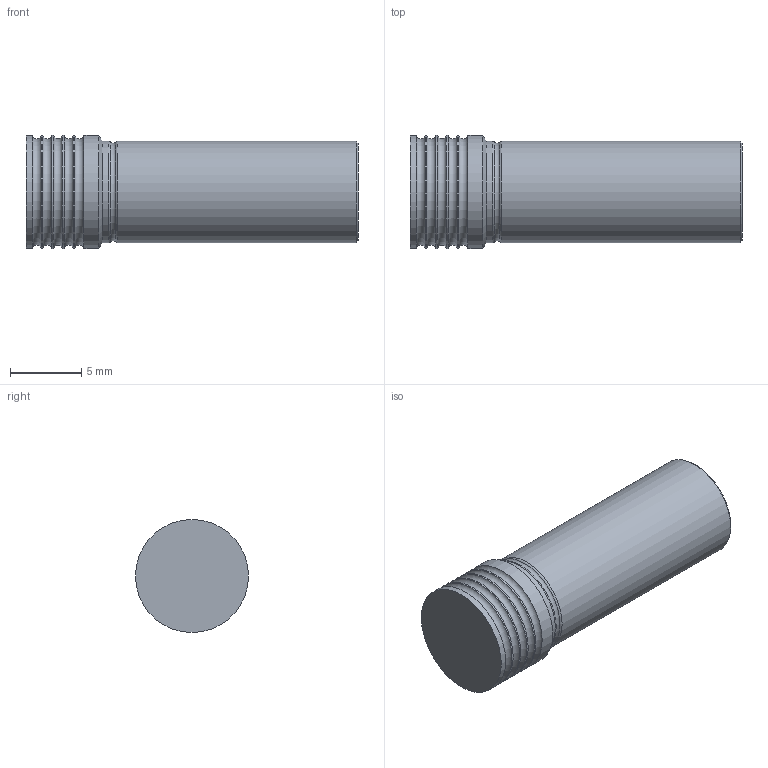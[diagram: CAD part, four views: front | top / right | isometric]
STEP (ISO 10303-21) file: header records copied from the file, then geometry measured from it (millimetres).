
FILE_DESCRIPTION(/* description */ ('PCHR8010XXXS'),/* implementation_level */ '2;1');
FILE_NAME(/* name */ '\\absolute\smwork\Vernon\PCHR8010XXXS.stp',/* time_stamp */ '2025-03-20T14:28:45-04:00',/* author */ ('VernonJ'),/* organization */ (''),/* preprocessor_version */ 'ST-DEVELOPER v18.1',/* originating_system */ 'Autodesk Inventor 2020',/* authorisation */ '');
FILE_SCHEMA (('AUTOMOTIVE_DESIGN { 1 0 10303 214 3 1 1 }'));
Length unit declared in the file: millimetre
Products named in the file (1): PCHR8010XXXS
Bounding box: 23.35 x 7.95 x 7.95 mm (x, y, z)
Volume: 969.5 mm3; surface area: 657.4 mm2
Topology: 1 solids, 1 shells, 20 faces, 68 edges, 50 vertices
Faces by surface type: cylinder 8, torus 8, cone 2, plane 2
Full cylindrical faces by diameter (mm): 7.14 x2, 7.95 x6
Entity records: 843 total; most frequent: DIRECTION 168, CARTESIAN_POINT 139, ORIENTED_EDGE 136, AXIS2_PLACEMENT_3D 79, EDGE_CURVE 68, CIRCLE 58, VERTEX_POINT 50, FACE_OUTER_BOUND 20
